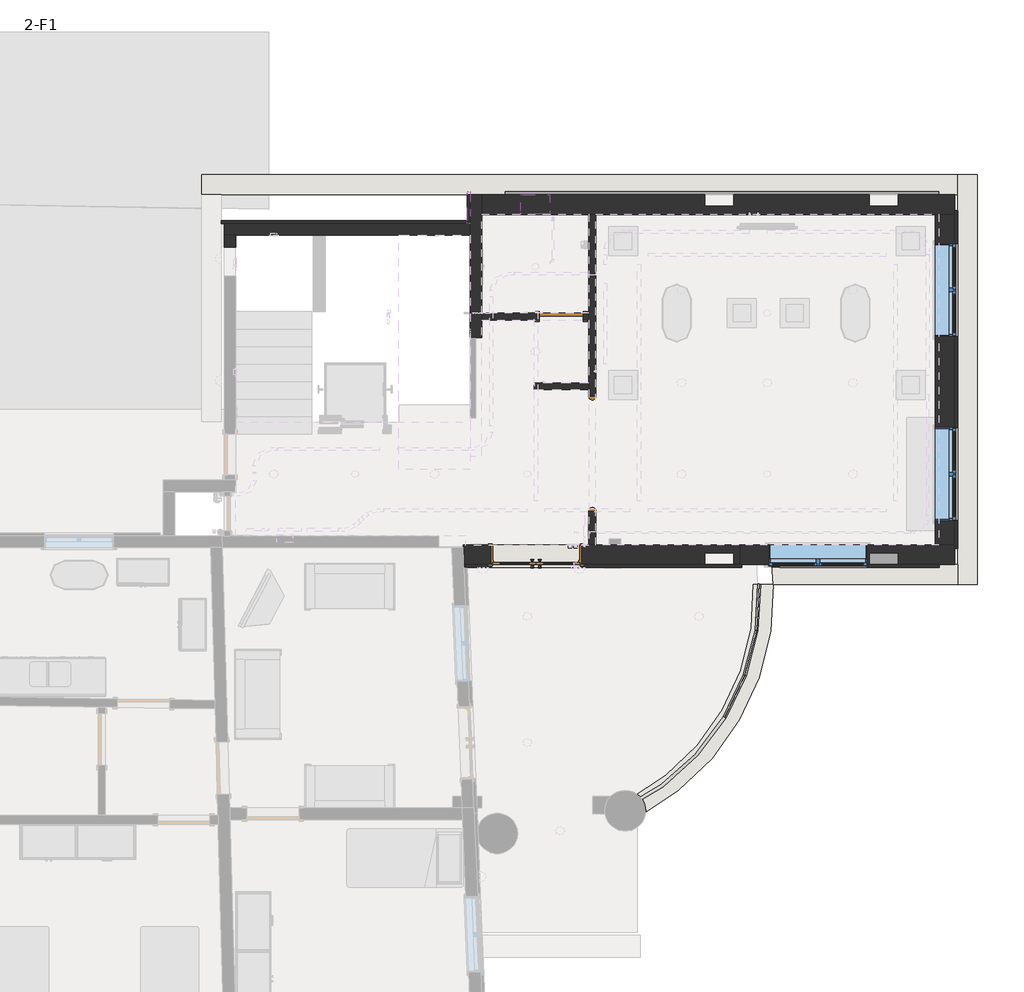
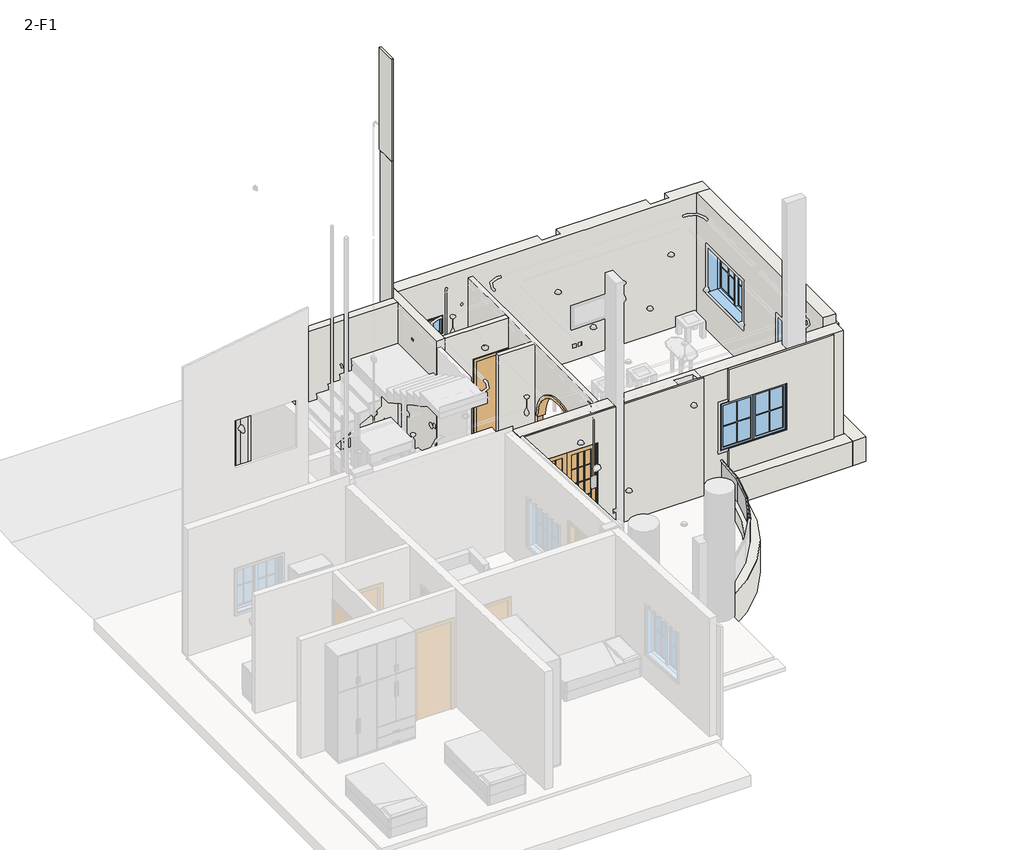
# One storey, part 2 of 6: 20 walls, 4 windows, 3 doors, 3 members, 3 plates.
"""IFC4 building model written with IfcOpenShell, lengths in millimetres."""

from ifc_helpers import new_model, si_unit, point, frame, frame_2d, origin, place, context, project, spatial, polyline, circle_curve, trimmed, segment, composite_curve, outline, extrude, faceted_brep, transform, mapped, element, save
from ifc_brep_helpers import plane_surface, cylinder_surface, revolved_surface, advanced_brep
from components import family1_family1_d6cad51c, m_door_interior_double_full_glass_wood_1550_x_2400mm_287b3f01, m_single_flush_0800x_2400_d2134bde, circular_mullion_25mm_radius_00b6462a, circular_mullion_25mm_radius_b3aa5af7, system_panel_glazed_32e3a640, system_panel_glazed_cc563820, m_fixed_0_5x0_5_7bd07c47, m_window_casement_double_1600_x_1300mm_8a1cf402, m_window_casement_double_1900_x_1300mm_09b68162

model = new_model("IFC4")

# Units and contexts
model_context = context("Model", 3, world=origin())
ifc_project = project(units=[si_unit("LENGTHUNIT", "METRE", prefix="MILLI")], contexts=[model_context])

# Site, building, storey
site = spatial("IfcSite", under=ifc_project)
building = spatial("IfcBuilding", under=site)
storey = spatial("IfcBuildingStorey", under=building, Name="2-F1", Elevation=3000.0)

# Doors
placement = place(None, origin())
family1_family1_shape = family1_family1_d6cad51c(model_context)
element("IfcDoor", 1, ObjectType="Family1 : Family1", at=placement, inside=storey, context=model_context, shape_type="MappedRepresentation", body=[
    mapped(family1_family1_shape, transform((1275.5234079, 4741.6620874, 3000.0), x_axis=(0.0, -1.0, 0.0), y_axis=(1.0, 0.0, 0.0), z_axis=(0.0, 0.0, 1.0))),
])
m_door_interior_double_full_glass_wood_1550_x_2400mm_shape = m_door_interior_double_full_glass_wood_1550_x_2400mm_287b3f01(model_context)
element("IfcDoor", 2, ObjectType="M_Door-Interior-Double-Full Glass-Wood : 1550 x 2400mm", at=placement, inside=storey, context=model_context, shape_type="MappedRepresentation", body=[
    mapped(m_door_interior_double_full_glass_wood_1550_x_2400mm_shape, transform((307.5234079, 2997.4736583, 3050.0), x_axis=(-1.0, 0.0, 0.0), y_axis=(0.0, -1.0, 0.0), z_axis=(0.0, 0.0, 1.0))),
])
m_single_flush_0800x_2400_shape = m_single_flush_0800x_2400_d2134bde(model_context)
element("IfcDoor", 3, ObjectType="M_Single-Flush : 0800x 2400", at=placement, inside=storey, context=model_context, shape_type="MappedRepresentation", body=[
    mapped(m_single_flush_0800x_2400_shape, transform((740.5234079, 7101.6620874, 3000.0), x_axis=(1.0, 0.0, 0.0), y_axis=(0.0, 1.0, 0.0), z_axis=(0.0, 0.0, 1.0))),
])

# Members
circular_mullion_25mm_radius_shape = circular_mullion_25mm_radius_00b6462a(model_context)
element("IfcMember", 4, ObjectType="Circular Mullion : 25mm Radius", at=placement, inside=storey, context=model_context, shape_type="MappedRepresentation", body=[
    mapped(circular_mullion_25mm_radius_shape, transform((3552.5617588, 200.8336317, 4110.0), x_axis=(0.0, 0.0, 1.0), y_axis=(-0.9008991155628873, 0.43402855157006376, 0.0), z_axis=(-0.43402855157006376, -0.9008991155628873, 0.0))),
])
element("IfcMember", 5, ObjectType="Circular Mullion : 25mm Radius", at=placement, inside=storey, context=model_context, shape_type="MappedRepresentation", body=[
    mapped(circular_mullion_25mm_radius_shape, transform((3899.7846001, 921.5529242, 4110.0), x_axis=(0.0, 0.0, 1.0), y_axis=(-0.9679183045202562, 0.251265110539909, 0.0), z_axis=(-0.25126511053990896, -0.9679183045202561, 0.0))),
])
circular_mullion_25mm_radius_2_shape = circular_mullion_25mm_radius_b3aa5af7(model_context)
element("IfcMember", 6, ObjectType="Circular Mullion : 25mm Radius", at=placement, inside=storey, context=model_context, shape_type="MappedRepresentation", body=[
    mapped(circular_mullion_25mm_radius_2_shape, transform((4100.7966885, 1695.8875678, 4110.0), x_axis=(0.0, 0.0, 1.0), y_axis=(-0.9982591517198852, 0.05898021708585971, 0.0), z_axis=(-0.05898021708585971, -0.9982591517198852, 0.0))),
])

# Plates
system_panel_glazed_shape = system_panel_glazed_32e3a640(model_context)
element("IfcPlate", 7, ObjectType="System Panel : Glazed", at=placement, inside=storey, context=model_context, shape_type="MappedRepresentation", body=[
    mapped(system_panel_glazed_shape, transform((4124.3887755, 2095.1912305, 3430.0), x_axis=(-0.05898021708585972, -0.9982591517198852, 0.0), y_axis=(0.9982591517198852, -0.05898021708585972, 0.0), z_axis=(0.0, 0.0, 1.0))),
])
system_panel_glazed_2_shape = system_panel_glazed_cc563820(model_context)
element("IfcPlate", 8, ObjectType="System Panel : Glazed", at=placement, inside=storey, context=model_context, shape_type="MappedRepresentation", body=[
    mapped(system_panel_glazed_2_shape, transform((4000.2906443, 1308.720246, 3430.0), x_axis=(-0.2512651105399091, -0.9679183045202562, 0.0), y_axis=(0.9679183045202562, -0.2512651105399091, 0.0), z_axis=(0.0, 0.0, 1.0))),
])
element("IfcPlate", 9, ObjectType="System Panel : Glazed", at=placement, inside=storey, context=model_context, shape_type="MappedRepresentation", body=[
    mapped(system_panel_glazed_2_shape, transform((3726.1731795, 561.1932779, 3430.0), x_axis=(-0.43402855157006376, -0.9008991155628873, 0.0), y_axis=(0.9008991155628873, -0.43402855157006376, 0.0), z_axis=(0.0, 0.0, 1.0))),
])

# Walls
element("IfcWall", 10, ObjectType="34cm", at=placement, inside=storey, context=model_context, shape_type="Brep", body=[
    faceted_brep([(7512.5234079, 9201.6620874, 6550.0), (7512.5234079, 9201.6620874, 3000.0), (6542.5234079, 9201.6620874, 3000.0), (6542.5234079, 9201.6620874, 6550.0), (3712.5234079, 9201.6620874, 3000.0), (3712.5234079, 9201.6620874, 6550.0), (6042.5234079, 9201.6620874, 6550.0), (6042.5234079, 9201.6620874, 3000.0), (-627.4765921, 9201.6620874, 3000.0), (-627.4765921, 9201.6620874, 6550.0), (3212.5234079, 9201.6620874, 6550.0), (3212.5234079, 9201.6620874, 3000.0), (544.0234079, 9201.6620874, 5000.0), (544.0234079, 9201.6620874, 5500.0), (44.0234079, 9201.6620874, 5500.0), (44.0234079, 9201.6620874, 5000.0), (-627.4765921, 8861.6620874, 3000.0), (1215.5234079, 8861.6620874, 3000.0), (1335.5234079, 8861.6620874, 3000.0), (7512.5234079, 8861.6620874, 3000.0), (7512.5234079, 8861.6620874, 6550.0), (7172.5234079, 8861.6620874, 6550.0), (-627.4765921, 8861.6620874, 6550.0), (544.0234079, 8861.6620874, 5500.0), (544.0234079, 8861.6620874, 5000.0), (44.0234079, 8861.6620874, 5000.0), (44.0234079, 8861.6620874, 5500.0), (3952.8774899, 8861.6620874, 4170.0), (3952.8774899, 8861.6620874, 4230.0), (4012.8774899, 8861.6620874, 4230.0), (4012.8774899, 8861.6620874, 4170.0), (4097.8774899, 8861.6620874, 4170.0), (4097.8774899, 8861.6620874, 4230.0), (4157.8774899, 8861.6620874, 4230.0), (4157.8774899, 8861.6620874, 4170.0), (3950.6274899, 8861.6620874, 3420.0), (3950.6274899, 8861.6620874, 3480.0), (4010.6274899, 8861.6620874, 3480.0), (4010.6274899, 8861.6620874, 3420.0), (4097.8774899, 8861.6620874, 3420.0), (4097.8774899, 8861.6620874, 3480.0), (4157.8774899, 8861.6620874, 3480.0), (4157.8774899, 8861.6620874, 3420.0), (3212.5234079, 9001.6620874, 3000.0), (3712.5234079, 9001.6620874, 3000.0), (6042.5234079, 9001.6620874, 3000.0), (6542.5234079, 9001.6620874, 3000.0), (6542.5234079, 9001.6620874, 6550.0), (6042.5234079, 9001.6620874, 6550.0), (3712.5234079, 9001.6620874, 6550.0), (3212.5234079, 9001.6620874, 6550.0), (3952.8774899, 8911.6620874, 4170.0), (4012.8774899, 8911.6620874, 4170.0), (4012.8774899, 8911.6620874, 4230.0), (3952.8774899, 8911.6620874, 4230.0), (4097.8774899, 8911.6620874, 4170.0), (4157.8774899, 8911.6620874, 4170.0), (4157.8774899, 8911.6620874, 4230.0), (4097.8774899, 8911.6620874, 4230.0), (3950.6274899, 8911.6620874, 3420.0), (4010.6274899, 8911.6620874, 3420.0), (4010.6274899, 8911.6620874, 3480.0), (3950.6274899, 8911.6620874, 3480.0), (4097.8774899, 8911.6620874, 3420.0), (4157.8774899, 8911.6620874, 3420.0), (4157.8774899, 8911.6620874, 3480.0), (4097.8774899, 8911.6620874, 3480.0)], [[[0, 1, 2, 3]], [[4, 5, 6, 7]], [[8, 9, 10, 11], [12, 13, 14, 15]], [[16, 17, 18, 19, 20, 21, 22], [23, 24, 25, 26], [27, 28, 29, 30], [31, 32, 33, 34], [35, 36, 37, 38], [39, 40, 41, 42]], [[19, 18, 17, 16, 8, 11, 43, 44, 4, 7, 45, 46, 2, 1]], [[22, 21, 20, 0, 3, 47, 48, 6, 5, 49, 50, 10, 9]], [[13, 12, 24, 23]], [[14, 13, 23, 26]], [[15, 14, 26, 25]], [[12, 15, 25, 24]], [[9, 8, 16, 22]], [[51, 52, 53, 54]], [[51, 54, 28, 27]], [[54, 53, 29, 28]], [[53, 52, 30, 29]], [[52, 51, 27, 30]], [[55, 56, 57, 58]], [[55, 58, 32, 31]], [[58, 57, 33, 32]], [[57, 56, 34, 33]], [[56, 55, 31, 34]], [[59, 60, 61, 62]], [[59, 62, 36, 35]], [[62, 61, 37, 36]], [[61, 60, 38, 37]], [[60, 59, 35, 38]], [[63, 64, 65, 66]], [[63, 66, 40, 39]], [[66, 65, 41, 40]], [[65, 64, 42, 41]], [[64, 63, 39, 42]], [[1, 0, 20, 19]], [[49, 5, 4, 44]], [[50, 49, 44, 43]], [[10, 50, 43, 11]], [[46, 47, 3, 2]], [[47, 46, 45, 48]], [[48, 45, 7, 6]]]),
])
element("IfcWall", 11, ObjectType="34cm", at=placement, inside=storey, context=model_context, shape_type="Brep", body=[
    faceted_brep([(3812.1676506, 2830.6486583, 6300.0), (3812.1676506, 2830.6486583, 3000.0), (6042.5234079, 2830.6486583, 3000.0), (6042.5234079, 2830.6486583, 6300.0), (4497.7813491, 2830.6486583, 6300.0), (4308.0880373, 2830.6486583, 4110.0), (4308.0880373, 2830.6486583, 5395.0), (4497.7813491, 2830.6486583, 5395.0), (6008.0880373, 2830.6486583, 5395.0), (6008.0880373, 2830.6486583, 4110.0), (4497.7813491, 2830.6486583, 4110.0), (7512.5234079, 2830.6486583, 3000.0), (7512.5234079, 2830.6486583, 6300.0), (7245.5234079, 2830.6486583, 6300.0), (6542.5234079, 2830.6486583, 6300.0), (6542.5234079, 2830.6486583, 3000.0), (7512.5234079, 3170.6486583, 3000.0), (3812.1676506, 3170.6486583, 3000.0), (3812.1676506, 3170.6486583, 6300.0), (7512.5234079, 3170.6486583, 6300.0), (4308.0880373, 3170.6486583, 5395.0), (4308.0880373, 3170.6486583, 4110.0), (6008.0880373, 3170.6486583, 4110.0), (6008.0880373, 3170.6486583, 5395.0), (6542.5234079, 3030.6486583, 3000.0), (6042.5234079, 3030.6486583, 3000.0), (6042.5234079, 3030.6486583, 6300.0), (6542.5234079, 3030.6486583, 6300.0)], [[[0, 1, 2, 3, 4], [5, 6, 7, 8, 9, 10]], [[11, 12, 13, 14, 15]], [[16, 17, 18, 19], [20, 21, 22, 23]], [[17, 16, 11, 15, 24, 25, 2, 1]], [[19, 18, 0, 4, 3, 26, 27, 14, 13, 12]], [[1, 0, 18, 17]], [[21, 20, 6, 5]], [[22, 21, 5, 10, 9]], [[23, 22, 9, 8]], [[20, 23, 8, 7, 6]], [[12, 11, 16, 19]], [[27, 24, 15, 14]], [[25, 26, 3, 2]], [[26, 25, 24, 27]]]),
])
element("IfcWall", 12, ObjectType="34cm", at=placement, inside=storey, context=model_context, shape_type="Brep", body=[
    faceted_brep([(7512.5234079, 3170.6486583, 2750.0), (7512.5234079, 8861.6620874, 2750.0), (7512.5234079, 8861.6620874, 3000.0), (7512.5234079, 8861.6620874, 6550.0), (7512.5234079, 3170.6486583, 6550.0), (7512.5234079, 3170.6486583, 6300.0), (7512.5234079, 3170.6486583, 3000.0), (7512.5234079, 3590.5529852, 5400.0), (7512.5234079, 5190.5529852, 5400.0), (7512.5234079, 5190.5529852, 4110.0), (7512.5234079, 3590.5529852, 4110.0), (7512.5234079, 6758.7168012, 5400.0), (7512.5234079, 8358.7168012, 5400.0), (7512.5234079, 8358.7168012, 4110.0), (7512.5234079, 6758.7168012, 4110.0), (7172.5234079, 3170.6486583, 2750.0), (7172.5234079, 3170.6486583, 6550.0), (7172.5234079, 8861.6620874, 6550.0), (7172.5234079, 8861.6620874, 2750.0), (7172.5234079, 3590.5529852, 5400.0), (7172.5234079, 3590.5529852, 4110.0), (7172.5234079, 5190.5529852, 4110.0), (7172.5234079, 5190.5529852, 5400.0), (7172.5234079, 6758.7168012, 5400.0), (7172.5234079, 6758.7168012, 4110.0), (7172.5234079, 8358.7168012, 4110.0), (7172.5234079, 8358.7168012, 5400.0)], [[[0, 1, 2, 3, 4, 5, 6], [7, 8, 9, 10], [11, 12, 13, 14]], [[15, 16, 17, 18], [19, 20, 21, 22], [23, 24, 25, 26]], [[1, 0, 15, 18]], [[4, 3, 17, 16]], [[20, 19, 7, 10]], [[21, 20, 10, 9]], [[22, 21, 9, 8]], [[19, 22, 8, 7]], [[24, 23, 11, 14]], [[25, 24, 14, 13]], [[26, 25, 13, 12]], [[23, 26, 12, 11]], [[3, 2, 1, 18, 17]], [[0, 6, 5, 4, 16, 15]]]),
])
element("IfcWall", 13, ObjectType="34cm", at=placement, inside=storey, context=model_context, shape_type="Brep", body=[
    faceted_brep([(3812.1676506, 3170.6486583, 3000.0), (-942.5203759, 3170.6486583, 3000.0), (-942.5203759, 3170.6486583, 6300.0), (3812.1676506, 3170.6486583, 6300.0), (-467.4765921, 3170.6486583, 5475.0), (-467.4765921, 3170.6486583, 3050.0), (1082.5234079, 3170.6486583, 3050.0), (1082.5234079, 3170.6486583, 5475.0), (3812.1676506, 2830.6486583, 3000.0), (3812.1676506, 2830.6486583, 6300.0), (3712.5234079, 2830.6486583, 6300.0), (3712.5234079, 2830.6486583, 3000.0), (-928.9399762, 2830.6486583, 6300.0), (-928.9399762, 2830.6486583, 3000.0), (3212.5234079, 2830.6486583, 3000.0), (3212.5234079, 2830.6486583, 6300.0), (-467.4765921, 2830.6486583, 3050.0), (-467.4765921, 2830.6486583, 5475.0), (1082.5234079, 2830.6486583, 5475.0), (1082.5234079, 2830.6486583, 3050.0), (3712.5234079, 3030.6486583, 3000.0), (3212.5234079, 3030.6486583, 3000.0), (-940.7564284, 3126.4863231, 3000.0), (-941.0747587, 3134.4560655, 3000.0), (-940.7564284, 3126.4863231, 6300.0), (3212.5234079, 3030.6486583, 6300.0), (3712.5234079, 3030.6486583, 6300.0)], [[[0, 1, 2, 3], [4, 5, 6, 7]], [[8, 9, 10, 11]], [[12, 13, 14, 15], [16, 17, 18, 19]], [[1, 0, 8, 11, 20, 21, 14, 13, 22, 23]], [[3, 2, 24, 12, 15, 25, 26, 10, 9]], [[0, 3, 9, 8]], [[5, 4, 17, 16]], [[4, 7, 18, 17]], [[7, 6, 19, 18]], [[6, 5, 16, 19]], [[2, 1, 23, 22, 13, 12, 24]], [[26, 20, 11, 10]], [[21, 25, 15, 14]], [[25, 21, 20, 26]]]),
])
element("IfcWall", 14, ObjectType="Generic - 200mm", at=placement, inside=storey, context=model_context, shape_type="AdvancedBrep", body=[
    advanced_brep(
    [(-827.4765921, 8701.6620874, 3000.0), (-5057.4765921, 8701.6620874, 3000.0), (-5057.4765921, 8701.6620874, 6550.0), (-827.4765921, 8701.6620874, 6550.0), (-5057.4765921, 8501.6620874, 3000.0), (-4857.4765921, 8501.6620874, 3000.0), (-827.4765921, 8501.6620874, 3000.0), (-827.4765921, 8501.6620874, 6550.0), (-4857.4765921, 8501.6620874, 6550.0), (-5057.4765921, 8501.6620874, 6550.0), (-4152.4765921, 8501.6620874, 5986.2440191), (-4262.4765921, 8501.6620874, 5986.2440191), (-1387.4765921, 8501.6620874, 3700.0), (-1497.4765921, 8501.6620874, 3700.0), (-4262.4765921, 8539.7620874, 5986.2440191), (-4152.4765921, 8539.7620874, 5986.2440191), (-1497.4765921, 8539.7620874, 3700.0), (-1387.4765921, 8539.7620874, 3700.0)],
    [
        (0, 1),
        (1, 2),
        (2, 3),
        (3, 0),
        (4, 5),
        (5, 6),
        (6, 7),
        (7, 8),
        (8, 9),
        (9, 4),
        (10, 11, circle_curve(frame((-4207.4765921, 8501.6620874, 5986.2440191), z_axis=(0.0, 1.0, 0.0), x_axis=(1.0, 0.0, 0.0)), 55.0)),
        (11, 10, circle_curve(frame((-4207.4765921, 8501.6620874, 5986.2440191), z_axis=(0.0, 1.0, 0.0), x_axis=(1.0, 0.0, 0.0)), 55.0)),
        (12, 13, circle_curve(frame((-1442.4765921, 8501.6620874, 3700.0), z_axis=(0.0, 1.0, 0.0), x_axis=(1.0, 0.0, 0.0)), 55.0)),
        (13, 12, circle_curve(frame((-1442.4765921, 8501.6620874, 3700.0), z_axis=(0.0, 1.0, 0.0), x_axis=(1.0, 0.0, 0.0)), 55.0)),
        (0, 6),
        (4, 1),
        (2, 9),
        (7, 3),
        (14, 15, circle_curve(frame((-4207.4765921, 8539.7620874, 5986.2440191), z_axis=(0.0, -1.0, 0.0), x_axis=(1.0, 0.0, 0.0)), 55.0)),
        (15, 14, circle_curve(frame((-4207.4765921, 8539.7620874, 5986.2440191), z_axis=(0.0, -1.0, 0.0), x_axis=(1.0, 0.0, 0.0)), 55.0)),
        (14, 11),
        (10, 15),
        (16, 17, circle_curve(frame((-1442.4765921, 8539.7620874, 3700.0), z_axis=(0.0, -1.0, 0.0), x_axis=(1.0, 0.0, 0.0)), 55.0)),
        (17, 16, circle_curve(frame((-1442.4765921, 8539.7620874, 3700.0), z_axis=(0.0, -1.0, 0.0), x_axis=(1.0, 0.0, 0.0)), 55.0)),
        (16, 13),
        (12, 17),
    ],
    [
        plane_surface(frame((-262.1225101, 8701.6620874, 3000.0), z_axis=(0.0, 1.0, 0.0), x_axis=(-1.0, 0.0, 0.0))),
        plane_surface(frame((-262.1225101, 8501.6620874, 3000.0), z_axis=(0.0, -1.0, 0.0), x_axis=(1.0, 0.0, 0.0))),
        plane_surface(frame((-727.4765921, 8701.6620874, 3000.0), z_axis=(0.0, 0.0, -1.0), x_axis=(0.0, -1.0, 0.0))),
        plane_surface(frame((-4957.4765921, 8701.6620874, 6550.0), z_axis=(0.0, 0.0, 1.0), x_axis=(0.0, -1.0, 0.0))),
        plane_surface(frame((-5057.4765921, 8301.6620874, 3000.0), z_axis=(-1.0, 0.0, 0.0), x_axis=(0.0, -1.0, 0.0))),
        plane_surface(frame((-4152.4765921, 8539.7620874, 5986.2440191), z_axis=(0.0, -1.0, 0.0), x_axis=(0.0, 0.0, -1.0))),
        revolved_surface(polyline([(-4152.4765921, 8501.6620874, 5986.2440191), (-4152.4765921, 8539.7620874, 5986.2440191)]), (-4207.4765921, 8539.7620874, 5986.2440191), (0.0, -1.0, 0.0)),
        plane_surface(frame((-1387.4765921, 8539.7620874, 3700.0), z_axis=(0.0, -1.0, 0.0), x_axis=(0.0, 0.0, -1.0))),
        revolved_surface(polyline([(-1387.4765921, 8501.6620874, 3700.0), (-1387.4765921, 8539.7620874, 3700.0)]), (-1442.4765921, 8539.7620874, 3700.0), (0.0, -1.0, 0.0)),
        plane_surface(frame((-827.4765921, 8053.3241747, 3000.0), z_axis=(1.0, 0.0, 0.0), x_axis=(0.0, -1.0, 0.0))),
    ],
    [
        (0, [[1, 2, 3, 4]]),
        (1, [[5, 6, 7, 8, 9, 10], [11, 12], [13, 14]]),
        (2, [[-1, 15, -6, -5, 16]]),
        (3, [[-3, 17, -9, -8, 18]]),
        (4, [[-2, -16, -10, -17]]),
        (5, [[19, 20]]),
        (6, [[-19, 21, -11, 22]]),
        (6, [[-20, -22, -12, -21]]),
        (7, [[23, 24]]),
        (8, [[-23, 25, -13, 26]]),
        (8, [[-24, -26, -14, -25]]),
        (9, [[-4, -18, -7, -15]]),
    ],
),
])
element("IfcWall", 15, ObjectType="Generic - 200mm", at=placement, inside=storey, context=model_context, shape_type="SweptSolid", body=[
    extrude(outline(polyline([(-5057.4765921, 8301.6620874), (-5057.4765921, 8501.6620874), (-4857.4765921, 8501.6620874), (-4857.4765921, 8301.6620874), (-5057.4765921, 8301.6620874)])), frame((0.0, 0.0, 3000.0), z_axis=(0.0, 0.0, 1.0), x_axis=(1.0, 0.0, 0.0)), (0.0, 0.0, 1.0), 3550.0),
])
element("IfcWall", 16, ObjectType="Generic - 200mm", at=placement, inside=storey, context=model_context, shape_type="Brep", body=[
    faceted_brep([(-827.4765921, 9201.6620874, 3000.0), (-827.4765921, 8701.6620874, 3000.0), (-827.4765921, 8501.6620874, 3000.0), (-827.4765921, 6741.6620874, 3000.0), (-827.4765921, 6741.6620874, 6550.0), (-827.4765921, 8501.6620874, 6550.0), (-827.4765921, 8701.6620874, 6550.0), (-827.4765921, 9201.6620874, 6550.0), (-827.4765921, 7874.4560655, 5891.4545455), (-827.4765921, 7874.4560655, 5951.4545455), (-827.4765921, 7814.4560655, 5951.4545455), (-827.4765921, 7814.4560655, 5891.4545455), (-827.4765921, 6871.6620874, 4120.0), (-827.4765921, 6871.6620874, 4180.0), (-827.4765921, 6811.6620874, 4180.0), (-827.4765921, 6811.6620874, 4120.0), (-627.4765921, 6741.6620874, 3000.0), (-627.4765921, 7041.6620874, 3000.0), (-627.4765921, 7161.6620874, 3000.0), (-627.4765921, 9201.6620874, 3000.0), (-627.4765921, 9201.6620874, 3050.0), (-627.4765921, 9201.6620874, 6550.0), (-627.4765921, 8861.6620874, 6550.0), (-627.4765921, 6741.6620874, 6550.0), (-727.4765921, 6741.6620874, 3000.0), (-777.4765921, 7874.4560655, 5891.4545455), (-777.4765921, 7814.4560655, 5891.4545455), (-777.4765921, 7814.4560655, 5951.4545455), (-777.4765921, 7874.4560655, 5951.4545455), (-777.4765921, 6871.6620874, 4120.0), (-777.4765921, 6811.6620874, 4120.0), (-777.4765921, 6811.6620874, 4180.0), (-777.4765921, 6871.6620874, 4180.0)], [[[0, 1, 2, 3, 4, 5, 6, 7], [8, 9, 10, 11], [12, 13, 14, 15]], [[16, 17, 18, 19, 20, 21, 22, 23]], [[3, 2, 1, 0, 19, 18, 17, 16, 24]], [[4, 3, 24, 16, 23]], [[7, 6, 5, 4, 23, 22, 21]], [[0, 7, 21, 20, 19]], [[25, 26, 27, 28]], [[25, 28, 9, 8]], [[28, 27, 10, 9]], [[27, 26, 11, 10]], [[26, 25, 8, 11]], [[29, 30, 31, 32]], [[29, 32, 13, 12]], [[32, 31, 14, 13]], [[31, 30, 15, 14]], [[30, 29, 12, 15]]]),
])
element("IfcWall", 17, ObjectType="Generic -120mm", at=placement, inside=storey, context=model_context, shape_type="AdvancedBrep", body=[
    advanced_brep(
    [(1215.5234079, 3170.6486583, 3000.0), (1215.5234079, 3170.6486583, 6300.0), (1215.5234079, 5841.6620874, 6300.0), (1215.5234079, 5961.6620874, 6300.0), (1215.5234079, 7041.6620874, 6300.0), (1215.5234079, 7161.6620874, 6300.0), (1215.5234079, 8861.6620874, 6300.0), (1215.5234079, 8861.6620874, 3000.0), (1215.5234079, 7161.6620874, 3000.0), (1215.5234079, 7041.6620874, 3000.0), (1215.5234079, 5961.6620874, 3000.0), (1215.5234079, 5841.6620874, 3000.0), (1215.5234079, 5728.0035472, 3000.0), (1215.5234079, 5728.0035472, 4413.6585401), (1215.5234079, 3755.3206275, 4413.6585401), (1215.5234079, 3755.3206275, 3000.0), (1335.5234079, 3170.6486583, 6300.0), (1335.5234079, 3170.6486583, 3000.0), (1335.5234079, 3755.3206275, 3000.0), (1335.5234079, 3755.3206275, 4413.6585401), (1335.5234079, 5728.0035472, 4413.6585401), (1335.5234079, 5728.0035472, 3000.0), (1335.5234079, 8861.6620874, 3000.0), (1335.5234079, 8861.6620874, 6300.0), (1335.5234079, 8371.6620874, 3420.0), (1335.5234079, 8371.6620874, 3480.0), (1335.5234079, 8431.6620874, 3480.0), (1335.5234079, 8431.6620874, 3420.0), (1335.5234079, 6031.6620874, 3420.0), (1335.5234079, 6031.6620874, 3480.0), (1335.5234079, 6091.6620874, 3480.0), (1335.5234079, 6091.6620874, 3420.0), (1335.5234079, 6131.6620874, 4170.0), (1335.5234079, 6131.6620874, 4230.0), (1335.5234079, 6191.6620874, 4230.0), (1335.5234079, 6191.6620874, 4170.0), (1285.5234079, 8371.6620874, 3420.0), (1285.5234079, 8431.6620874, 3420.0), (1285.5234079, 8431.6620874, 3480.0), (1285.5234079, 8371.6620874, 3480.0), (1285.5234079, 6031.6620874, 3420.0), (1285.5234079, 6091.6620874, 3420.0), (1285.5234079, 6091.6620874, 3480.0), (1285.5234079, 6031.6620874, 3480.0), (1285.5234079, 6131.6620874, 4170.0), (1285.5234079, 6191.6620874, 4170.0), (1285.5234079, 6191.6620874, 4230.0), (1285.5234079, 6131.6620874, 4230.0)],
    [
        (0, 1),
        (1, 2),
        (2, 3),
        (3, 4),
        (4, 5),
        (5, 6),
        (6, 7),
        (7, 8),
        (8, 9),
        (9, 10),
        (10, 11),
        (11, 12),
        (12, 13),
        (13, 14, circle_curve(frame((1215.5234079, 4741.6620874, 4413.6585401), z_axis=(1.0, 0.0, 0.0), x_axis=(0.0, -1.0, 0.0)), 986.3414599)),
        (14, 15),
        (15, 0),
        (16, 17),
        (17, 18),
        (18, 19),
        (19, 20, circle_curve(frame((1335.5234079, 4741.6620874, 4413.6585401), z_axis=(-1.0, 0.0, 0.0), x_axis=(0.0, -1.0, 0.0)), 986.3414599)),
        (20, 21),
        (21, 22),
        (22, 23),
        (23, 16),
        (24, 25),
        (25, 26),
        (26, 27),
        (27, 24),
        (28, 29),
        (29, 30),
        (30, 31),
        (31, 28),
        (32, 33),
        (33, 34),
        (34, 35),
        (35, 32),
        (17, 0),
        (15, 18),
        (7, 22),
        (21, 12),
        (16, 1),
        (23, 6),
        (14, 19),
        (13, 20),
        (36, 37),
        (37, 38),
        (38, 39),
        (39, 36),
        (39, 25),
        (24, 36),
        (38, 26),
        (37, 27),
        (40, 41),
        (41, 42),
        (42, 43),
        (43, 40),
        (43, 29),
        (28, 40),
        (42, 30),
        (41, 31),
        (44, 45),
        (45, 46),
        (46, 47),
        (47, 44),
        (47, 33),
        (32, 44),
        (46, 34),
        (45, 35),
    ],
    [
        plane_surface(frame((1215.5234079, 8671.6620874, 3000.0), z_axis=(-1.0, 0.0, 0.0), x_axis=(0.0, -1.0, 0.0))),
        plane_surface(frame((1335.5234079, 8671.6620874, 3000.0), z_axis=(1.0, 0.0, 0.0), x_axis=(0.0, 1.0, 0.0))),
        plane_surface(frame((1215.5234079, 9031.6620874, 3000.0), z_axis=(0.0, 0.0, -1.0), x_axis=(1.0, 0.0, 0.0))),
        plane_surface(frame((1215.5234079, 3170.6486583, 3000.0), z_axis=(0.0, -1.0, 0.0), x_axis=(1.0, 0.0, 0.0))),
        plane_surface(frame((1215.5234079, 3170.6486583, 6300.0), z_axis=(0.0, 0.0, 1.0), x_axis=(1.0, 0.0, 0.0))),
        plane_surface(frame((7139.8275075, 8861.6620874, 3000.0), z_axis=(0.0, 1.0, 0.0), x_axis=(1.0, 0.0, 0.0))),
        plane_surface(frame((-188.4765921, 3755.3206275, 3000.0), z_axis=(0.0, 1.0, 0.0), x_axis=(1.0, 0.0, 0.0))),
        revolved_surface(polyline([(1215.5234079, 3755.3206275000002, 4413.6585401), (1335.5234079, 3755.3206275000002, 4413.6585401)]), (2859.5234079, 4741.6620874, 4413.6585401), (-1.0, 0.0, 0.0)),
        plane_surface(frame((-188.4765921, 5728.0035472, 4413.6585401), z_axis=(0.0, -1.0, 0.0), x_axis=(1.0, 0.0, 0.0))),
        plane_surface(frame((1285.5234079, 8371.6620874, 3420.0), z_axis=(1.0, 0.0, 0.0), x_axis=(0.0, 0.0, 1.0))),
        plane_surface(frame((1285.5234079, 8371.6620874, 3420.0), z_axis=(0.0, 1.0, 0.0), x_axis=(1.0, 0.0, 0.0))),
        plane_surface(frame((1285.5234079, 8371.6620874, 3480.0), z_axis=(0.0, 0.0, -1.0), x_axis=(1.0, 0.0, 0.0))),
        plane_surface(frame((1285.5234079, 8431.6620874, 3480.0), z_axis=(0.0, -1.0, 0.0), x_axis=(1.0, 0.0, 0.0))),
        plane_surface(frame((1285.5234079, 8431.6620874, 3420.0), z_axis=(0.0, 0.0, 1.0), x_axis=(1.0, 0.0, 0.0))),
        plane_surface(frame((1285.5234079, 6031.6620874, 3420.0), z_axis=(1.0, 0.0, 0.0), x_axis=(0.0, 0.0, 1.0))),
        plane_surface(frame((1285.5234079, 6031.6620874, 3420.0), z_axis=(0.0, 1.0, 0.0), x_axis=(1.0, 0.0, 0.0))),
        plane_surface(frame((1285.5234079, 6031.6620874, 3480.0), z_axis=(0.0, 0.0, -1.0), x_axis=(1.0, 0.0, 0.0))),
        plane_surface(frame((1285.5234079, 6091.6620874, 3480.0), z_axis=(0.0, -1.0, 0.0), x_axis=(1.0, 0.0, 0.0))),
        plane_surface(frame((1285.5234079, 6091.6620874, 3420.0), z_axis=(0.0, 0.0, 1.0), x_axis=(1.0, 0.0, 0.0))),
        plane_surface(frame((1285.5234079, 6131.6620874, 4170.0), z_axis=(1.0, 0.0, 0.0), x_axis=(0.0, 0.0, 1.0))),
        plane_surface(frame((1285.5234079, 6131.6620874, 4170.0), z_axis=(0.0, 1.0, 0.0), x_axis=(1.0, 0.0, 0.0))),
        plane_surface(frame((1285.5234079, 6131.6620874, 4230.0), z_axis=(0.0, 0.0, -1.0), x_axis=(1.0, 0.0, 0.0))),
        plane_surface(frame((1285.5234079, 6191.6620874, 4230.0), z_axis=(0.0, -1.0, 0.0), x_axis=(1.0, 0.0, 0.0))),
        plane_surface(frame((1285.5234079, 6191.6620874, 4170.0), z_axis=(0.0, 0.0, 1.0), x_axis=(1.0, 0.0, 0.0))),
    ],
    [
        (0, [[1, 2, 3, 4, 5, 6, 7, 8, 9, 10, 11, 12, 13, 14, 15, 16]]),
        (1, [[17, 18, 19, 20, 21, 22, 23, 24], [25, 26, 27, 28], [29, 30, 31, 32], [33, 34, 35, 36]]),
        (2, [[37, -16, 38, -18]]),
        (2, [[39, -22, 40, -12, -11, -10, -9, -8]]),
        (3, [[-1, -37, -17, 41]]),
        (4, [[-6, -5, -4, -3, -2, -41, -24, 42]]),
        (5, [[-7, -42, -23, -39]]),
        (6, [[43, -19, -38, -15]]),
        (7, [[-43, -14, 44, -20]]),
        (8, [[-44, -13, -40, -21]]),
        (9, [[45, 46, 47, 48]]),
        (10, [[-48, 49, -25, 50]]),
        (11, [[-47, 51, -26, -49]]),
        (12, [[-46, 52, -27, -51]]),
        (13, [[-45, -50, -28, -52]]),
        (14, [[53, 54, 55, 56]]),
        (15, [[-56, 57, -29, 58]]),
        (16, [[-55, 59, -30, -57]]),
        (17, [[-54, 60, -31, -59]]),
        (18, [[-53, -58, -32, -60]]),
        (19, [[61, 62, 63, 64]]),
        (20, [[-64, 65, -33, 66]]),
        (21, [[-63, 67, -34, -65]]),
        (22, [[-62, 68, -35, -67]]),
        (23, [[-61, -66, -36, -68]]),
    ],
),
])
element("IfcWall", 18, ObjectType="Generic -120mm", at=placement, inside=storey, context=model_context, shape_type="Brep", body=[
    faceted_brep([(1215.5234079, 7041.6620874, 6300.0), (-627.4765921, 7041.6620874, 6300.0), (-627.4765921, 7041.6620874, 3000.0), (365.5234079, 7041.6620874, 3000.0), (365.5234079, 7041.6620874, 5400.0), (1115.5234079, 7041.6620874, 5400.0), (1115.5234079, 7041.6620874, 3000.0), (1215.5234079, 7041.6620874, 3000.0), (-627.4765921, 7161.6620874, 6300.0), (1215.5234079, 7161.6620874, 6300.0), (1215.5234079, 7161.6620874, 3000.0), (1115.5234079, 7161.6620874, 3000.0), (1115.5234079, 7161.6620874, 5400.0), (365.5234079, 7161.6620874, 5400.0), (365.5234079, 7161.6620874, 3000.0), (-627.4765921, 7161.6620874, 3000.0), (277.5234079, 7161.6620874, 4120.0), (277.5234079, 7161.6620874, 4180.0), (217.5234079, 7161.6620874, 4180.0), (217.5234079, 7161.6620874, 4120.0), (277.5234079, 7111.6620874, 4120.0), (217.5234079, 7111.6620874, 4120.0), (217.5234079, 7111.6620874, 4180.0), (277.5234079, 7111.6620874, 4180.0)], [[[0, 1, 2, 3, 4, 5, 6, 7]], [[8, 9, 10, 11, 12, 13, 14, 15], [16, 17, 18, 19]], [[2, 15, 14, 3]], [[10, 7, 6, 11]], [[1, 0, 9, 8]], [[2, 1, 8, 15]], [[0, 7, 10, 9]], [[5, 12, 11, 6]], [[12, 5, 4, 13]], [[13, 4, 3, 14]], [[20, 21, 22, 23]], [[20, 23, 17, 16]], [[23, 22, 18, 17]], [[22, 21, 19, 18]], [[21, 20, 16, 19]]]),
])
element("IfcWall", 19, ObjectType="Generic -120mm", at=placement, inside=storey, context=model_context, shape_type="Brep", body=[
    faceted_brep([(272.5234079, 5841.6620874, 3000.0), (1215.5234079, 5841.6620874, 3000.0), (1215.5234079, 5841.6620874, 6300.0), (272.5234079, 5841.6620874, 6300.0), (1215.5234079, 5961.6620874, 3000.0), (272.5234079, 5961.6620874, 3000.0), (272.5234079, 5961.6620874, 6300.0), (1215.5234079, 5961.6620874, 6300.0), (445.5234079, 5961.6620874, 4120.0), (445.5234079, 5961.6620874, 4180.0), (385.5234079, 5961.6620874, 4180.0), (385.5234079, 5961.6620874, 4120.0), (445.5234079, 5911.6620874, 4120.0), (385.5234079, 5911.6620874, 4120.0), (385.5234079, 5911.6620874, 4180.0), (445.5234079, 5911.6620874, 4180.0)], [[[0, 1, 2, 3]], [[4, 5, 6, 7], [8, 9, 10, 11]], [[1, 0, 5, 4]], [[3, 2, 7, 6]], [[0, 3, 6, 5]], [[2, 1, 4, 7]], [[12, 13, 14, 15]], [[12, 15, 9, 8]], [[15, 14, 10, 9]], [[14, 13, 11, 10]], [[13, 12, 8, 11]]]),
])
element("IfcWall", 20, ObjectType="Wall1", at=placement, inside=storey, context=model_context, shape_type="Brep", body=[
    faceted_brep([(7562.5234079, 9541.6620874, 2750.0), (7562.5234079, 9201.6620874, 2750.0), (7562.5234079, 2830.6486583, 2750.0), (7562.5234079, 2490.6486583, 2750.0), (7562.5234079, 2490.6486583, 3430.0), (7562.5234079, 2830.6486583, 3430.0), (7562.5234079, 9201.6620874, 3430.0), (7562.5234079, 9541.6620874, 3430.0), (7902.5234079, 9541.6620874, 2750.0), (7902.5234079, 9541.6620874, 3430.0), (7902.5234079, 2490.6486583, 3430.0), (7902.5234079, 2490.6486583, 2750.0)], [[[0, 1, 2, 3, 4, 5, 6, 7]], [[8, 9, 10, 11]], [[3, 2, 1, 0, 8, 11]], [[7, 6, 5, 4, 10, 9]], [[4, 3, 11, 10]], [[0, 7, 9, 8]]]),
])
element("IfcWall", 21, ObjectType="Wall1", at=placement, inside=storey, context=model_context, shape_type="SweptSolid", body=[
    extrude(outline(composite_curve([segment(polyline([(4362.8531501, 2830.6486583), (7562.5234079, 2830.6486583), (7562.5234079, 2490.6486583), (4388.286927, 2490.6486583)]), True, "CONTINUOUS"), segment(trimmed(circle_curve(frame_2d((41.375057, 2336.428223)), 4349.6467383), [point((4388.286927, 2490.6486583))], [point((4362.8531501, 2830.6486583))], True, "CARTESIAN"), True, "CONTINUOUS")], self_intersect=False)), frame((0.0, 0.0, 2750.0), z_axis=(0.0, 0.0, 1.0), x_axis=(1.0, 0.0, 0.0)), (0.0, 0.0, 1.0), 680.0),
])
element("IfcWall", 22, ObjectType="Wall1", at=placement, inside=storey, context=model_context, shape_type="AdvancedBrep", body=[
    advanced_brep(
    [(2069.5973528, -1511.3946766, 3430.0), (4388.286927, 2490.6486583, 3430.0), (4048.0548574, 2490.6486583, 3430.0), (1911.0567581, -1210.6208748, 3430.0), (4388.286927, 2490.6486583, 2550.0), (2069.5973528, -1511.3946766, 2550.0), (1911.0567581, -1210.6208748, 2550.0), (4048.0548574, 2490.6486583, 2550.0), (4138.1200376, 2490.6486583, 2550.0), (2118.6167624, -1197.9982193, 2550.0), (2219.9543575, -1370.4241217, 2550.0), (4338.2551032, 2490.6486583, 2550.0), (4338.2551032, 2490.6486583, 2570.9943344), (4138.1200376, 2490.6486583, 2570.9943344), (2219.9543575, -1370.4241217, 2570.9943344), (2118.6167624, -1197.9982193, 2570.9943344)],
    [
        (0, 1, circle_curve(frame((41.375057, 2336.428223, 3430.0), z_axis=(0.0, 0.0, 1.0), x_axis=(1.0, 0.0, 0.0)), 4349.6467383)),
        (1, 2),
        (2, 3, circle_curve(frame((41.375057, 2336.428223, 3430.0), z_axis=(0.0, 0.0, -1.0), x_axis=(1.0, 0.0, 0.0)), 4009.6467383)),
        (3, 0),
        (4, 5, circle_curve(frame((41.375057, 2336.428223, 2550.0), z_axis=(0.0, 0.0, -1.0), x_axis=(1.0, 0.0, 0.0)), 4349.6467383)),
        (5, 6),
        (6, 7, circle_curve(frame((41.375057, 2336.428223, 2550.0), z_axis=(0.0, 0.0, 1.0), x_axis=(1.0, 0.0, 0.0)), 4009.6467383)),
        (7, 8),
        (8, 9, circle_curve(frame((41.375057, 2336.428223, 2550.0), z_axis=(0.0, 0.0, -1.0), x_axis=(1.0, 0.0, 0.0)), 4099.6467383)),
        (9, 10),
        (10, 11, circle_curve(frame((41.375057, 2336.428223, 2550.0), z_axis=(0.0, 0.0, 1.0), x_axis=(1.0, 0.0, 0.0)), 4299.6467383)),
        (11, 4),
        (0, 5),
        (4, 1),
        (2, 7),
        (6, 3),
        (11, 12),
        (12, 13),
        (13, 8),
        (14, 15),
        (15, 13, circle_curve(frame((41.375057, 2336.428223, 2570.9943344), z_axis=(0.0, 0.0, 1.0), x_axis=(1.0, 0.0, 0.0)), 4099.6467383)),
        (12, 14, circle_curve(frame((41.375057, 2336.428223, 2570.9943344), z_axis=(0.0, 0.0, -1.0), x_axis=(1.0, 0.0, 0.0)), 4299.6467383)),
        (10, 14),
        (15, 9),
    ],
    [
        plane_surface(frame((4391.0217953, 2336.428223, 3430.0), z_axis=(0.0, 0.0, 1.0), x_axis=(0.0, 1.0, 0.0))),
        plane_surface(frame((4391.0217953, 2336.428223, 2550.0), z_axis=(0.0, 0.0, -1.0), x_axis=(0.0, -1.0, 0.0))),
        cylinder_surface(frame((41.375057, 2336.428223, 2550.0), z_axis=(0.0, 0.0, 1.0), x_axis=(1.0, 0.0, 0.0)), 4349.6467383),
        revolved_surface(polyline([(4051.0217953, 2336.428223, 2550.0), (4051.0217953, 2336.428223, 3430.0)]), (41.375057, 2336.428223, 2550.0), (0.0, 0.0, -1.0)),
        plane_surface(frame((1911.0567581, -1210.6208748, 3430.0), z_axis=(-0.8846288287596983, -0.46629586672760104, 0.0), x_axis=(0.0, 0.0, -1.0))),
        plane_surface(frame((7795.5234079, 2490.6486583, 2750.0), z_axis=(0.0, 1.0, 0.0), x_axis=(1.0, 0.0, 0.0))),
        plane_surface(frame((4341.0217953, 2336.428223, 2570.9943344), z_axis=(0.0, 0.0, -1.0), x_axis=(0.0, 1.0, 0.0))),
        revolved_surface(polyline([(4341.0217953, 2336.428223, 2570.9943344), (4341.0217953, 2336.428223, 2550.0)]), (41.375057, 2336.428223, 580.0), (0.0, 0.0, 1.0)),
        cylinder_surface(frame((41.375057, 2336.428223, 580.0), z_axis=(0.0, 0.0, -1.0), x_axis=(1.0, 0.0, 0.0)), 4099.6467383),
        plane_surface(frame((2118.6167624, -1197.9982193, 2570.9943344), z_axis=(0.8621295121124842, 0.5066879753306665, 0.0), x_axis=(0.0, 0.0, -1.0))),
    ],
    [
        (0, [[1, 2, 3, 4]]),
        (1, [[5, 6, 7, 8, 9, 10, 11, 12]]),
        (2, [[-1, 13, -5, 14]]),
        (3, [[-3, 15, -7, 16]]),
        (4, [[-4, -16, -6, -13]]),
        (5, [[-2, -14, -12, 17, 18, 19, -8, -15]]),
        (6, [[20, 21, -18, 22]]),
        (7, [[-22, -17, -11, 23]]),
        (8, [[-21, 24, -9, -19]]),
        (9, [[-20, -23, -10, -24]]),
    ],
),
])
element("IfcWall", 23, ObjectType="Wall1", at=placement, inside=storey, context=model_context, shape_type="Brep", body=[
    faceted_brep([(7562.5234079, 9201.6620874, 3430.0), (-5107.4765921, 9201.6620874, 3430.0), (-5447.4765921, 9201.6620874, 3430.0), (-5447.4765921, 9201.6620874, 2750.0), (-5107.4765921, 9201.6620874, 2750.0), (-4292.1225101, 9201.6620874, 2750.0), (-4292.1225101, 9201.6620874, 3000.0), (-3942.1225101, 9201.6620874, 3000.0), (-3942.1225101, 9201.6620874, 2750.0), (7562.5234079, 9201.6620874, 2750.0), (-5447.4765921, 9541.6620874, 3430.0), (7562.5234079, 9541.6620874, 3430.0), (7562.5234079, 9541.6620874, 2750.0), (-3942.1225101, 9541.6620874, 2750.0), (-3942.1225101, 9541.6620874, 3000.0), (-4292.1225101, 9541.6620874, 3000.0), (-4292.1225101, 9541.6620874, 2750.0), (-5447.4765921, 9541.6620874, 2750.0)], [[[0, 1, 2, 3, 4, 5, 6, 7, 8, 9]], [[10, 11, 12, 13, 14, 15, 16, 17]], [[3, 17, 16, 5, 4]], [[12, 9, 8, 13]], [[2, 1, 0, 11, 10]], [[3, 2, 10, 17]], [[0, 9, 12, 11]], [[15, 6, 5, 16]], [[7, 14, 13, 8]], [[6, 15, 14, 7]]]),
])
element("IfcWall", 24, ObjectType="exterior stone walls", at=placement, inside=storey, context=model_context, shape_type="Brep", body=[
    faceted_brep([(7512.5234079, 8925.6486583, 2750.0), (7512.5234079, 8861.6620874, 2750.0), (7512.5234079, 3170.6486583, 2750.0), (7512.5234079, 3110.3467097, 2750.0), (7512.5234079, 3110.3467097, 6300.0), (7512.5234079, 8925.6486583, 6300.0), (7512.5234079, 6758.7168012, 5400.0), (7512.5234079, 6758.7168012, 4110.0), (7512.5234079, 8358.7168012, 4110.0), (7512.5234079, 8358.7168012, 5400.0), (7512.5234079, 3590.5529852, 5400.0), (7512.5234079, 3590.5529852, 4110.0), (7512.5234079, 5190.5529852, 4110.0), (7512.5234079, 5190.5529852, 5400.0), (7562.5234079, 8925.6486583, 2750.0), (7562.5234079, 8925.6486583, 6300.0), (7562.5234079, 3110.3467097, 6300.0), (7562.5234079, 3110.3467097, 2750.0), (7562.5234079, 6758.7168012, 5400.0), (7562.5234079, 8358.7168012, 5400.0), (7562.5234079, 8358.7168012, 4110.0), (7562.5234079, 6758.7168012, 4110.0), (7562.5234079, 3590.5529852, 5400.0), (7562.5234079, 5190.5529852, 5400.0), (7562.5234079, 5190.5529852, 4110.0), (7562.5234079, 3590.5529852, 4110.0)], [[[0, 1, 2, 3, 4, 5], [6, 7, 8, 9], [10, 11, 12, 13]], [[14, 15, 16, 17], [18, 19, 20, 21], [22, 23, 24, 25]], [[3, 2, 1, 0, 14, 17]], [[4, 3, 17, 16]], [[5, 4, 16, 15]], [[0, 5, 15, 14]], [[7, 6, 18, 21]], [[8, 7, 21, 20]], [[9, 8, 20, 19]], [[6, 9, 19, 18]], [[11, 10, 22, 25]], [[12, 11, 25, 24]], [[13, 12, 24, 23]], [[10, 13, 23, 22]]]),
])
element("IfcWall", 25, ObjectType="exterior stone walls", at=placement, inside=storey, context=model_context, shape_type="Brep", body=[
    faceted_brep([(-926.9428586, 2780.6486583, 2750.0), (3845.3230844, 2780.6486583, 2750.0), (3845.3230844, 2780.6486583, 6300.0), (-926.9428586, 2780.6486583, 6300.0), (-926.9428586, 2780.6486583, 3000.0), (1505.5234079, 2780.6486583, 3420.0), (1505.5234079, 2780.6486583, 3480.0), (1565.5234079, 2780.6486583, 3480.0), (1565.5234079, 2780.6486583, 3420.0), (-467.4765921, 2780.6486583, 3050.0), (-467.4765921, 2780.6486583, 5475.0), (1082.5234079, 2780.6486583, 5475.0), (1082.5234079, 2780.6486583, 3050.0), (3845.3230844, 2830.6486583, 2750.0), (-928.9399762, 2830.6486583, 2750.0), (-928.9399762, 2830.6486583, 3000.0), (-928.9399762, 2830.6486583, 6300.0), (3212.5234079, 2830.6486583, 6300.0), (3712.5234079, 2830.6486583, 6300.0), (3812.1676506, 2830.6486583, 6300.0), (3845.3230844, 2830.6486583, 6300.0), (1505.5234079, 2830.6486583, 3480.0), (1505.5234079, 2830.6486583, 3420.0), (1565.5234079, 2830.6486583, 3420.0), (1565.5234079, 2830.6486583, 3480.0), (-467.4765921, 2830.6486583, 3050.0), (1082.5234079, 2830.6486583, 3050.0), (1082.5234079, 2830.6486583, 5475.0), (-467.4765921, 2830.6486583, 5475.0)], [[[0, 1, 2, 3, 4], [5, 6, 7, 8], [9, 10, 11, 12]], [[13, 14, 15, 16, 17, 18, 19, 20], [21, 22, 23, 24], [25, 26, 27, 28]], [[1, 0, 14, 13]], [[2, 1, 13, 20]], [[3, 2, 20, 19, 18, 17, 16]], [[0, 4, 3, 16, 15, 14]], [[21, 6, 5, 22]], [[6, 21, 24, 7]], [[7, 24, 23, 8]], [[22, 5, 8, 23]], [[10, 9, 25, 28]], [[11, 10, 28, 27]], [[12, 11, 27, 26]], [[9, 12, 26, 25]]]),
])
element("IfcWall", 26, ObjectType="exterior stone walls", at=placement, inside=storey, context=model_context, shape_type="Brep", body=[
    faceted_brep([(-877.4765921, 9201.6620874, 3000.0), (-877.4765921, 8751.6620874, 3000.0), (-877.4765921, 8701.6620874, 3000.0), (-877.4765921, 8701.6620874, 6300.0), (-877.4765921, 8701.6620874, 6980.0), (-877.4765921, 8701.6620874, 9650.0), (-877.4765921, 8701.6620874, 10330.0), (-877.4765921, 9041.6620874, 10330.0), (-877.4765921, 9201.6620874, 10330.0), (-827.4765921, 9201.6620874, 3000.0), (-827.4765921, 9201.6620874, 6550.0), (-827.4765921, 9201.6620874, 9900.0), (-827.4765921, 9201.6620874, 10330.0), (-827.4765921, 8701.6620874, 10330.0), (-827.4765921, 8701.6620874, 3000.0)], [[[0, 1, 2, 3, 4, 5, 6, 7, 8]], [[9, 10, 11, 12, 13, 14]], [[2, 1, 0, 9, 14]], [[8, 7, 6, 13, 12]], [[0, 8, 12, 11, 10, 9]], [[2, 14, 13, 6, 5, 4, 3]]]),
])
element("IfcWall", 27, ObjectType="exterior stone walls", at=placement, inside=storey, context=model_context, shape_type="Brep", body=[
    faceted_brep([(-877.4765921, 8751.6620874, 3000.0), (-5107.4765921, 8751.6620874, 3000.0), (-5107.4765921, 8751.6620874, 6300.0), (-877.4765921, 8751.6620874, 6300.0), (-877.4765921, 8701.6620874, 3000.0), (-877.4765921, 8701.6620874, 6300.0), (-5057.4765921, 8701.6620874, 6300.0), (-5107.4765921, 8701.6620874, 6300.0), (-5107.4765921, 8701.6620874, 3000.0), (-5057.4765921, 8701.6620874, 3000.0)], [[[0, 1, 2, 3]], [[4, 5, 6, 7, 8, 9]], [[1, 0, 4, 9, 8]], [[3, 2, 7, 6, 5]], [[0, 3, 5, 4]], [[2, 1, 8, 7]]]),
])
element("IfcWall", 28, ObjectType="exterior stone walls", at=placement, inside=storey, context=model_context, shape_type="Brep", body=[
    faceted_brep([(4497.7813491, 2780.6486583, 3429.175163), (7245.5234079, 2780.6486583, 3429.175163), (7245.5234079, 2780.6486583, 6300.0), (4497.7813491, 2780.6486583, 6300.0), (4497.7813491, 2780.6486583, 5395.0), (6008.0880373, 2780.6486583, 5395.0), (6008.0880373, 2780.6486583, 4110.0), (4497.7813491, 2780.6486583, 4110.0), (7245.5234079, 2830.6486583, 3429.175163), (4497.7813491, 2830.6486583, 3429.175163), (4497.7813491, 2830.6486583, 4110.0), (6008.0880373, 2830.6486583, 4110.0), (6008.0880373, 2830.6486583, 5395.0), (4497.7813491, 2830.6486583, 5395.0), (4497.7813491, 2830.6486583, 6300.0), (6042.5234079, 2830.6486583, 6300.0), (6542.5234079, 2830.6486583, 6300.0), (7245.5234079, 2830.6486583, 6300.0)], [[[0, 1, 2, 3, 4, 5, 6, 7]], [[8, 9, 10, 11, 12, 13, 14, 15, 16, 17]], [[1, 0, 9, 8]], [[2, 1, 8, 17]], [[3, 2, 17, 16, 15, 14]], [[3, 14, 13, 4]], [[9, 0, 7, 10]], [[6, 11, 10, 7]], [[11, 6, 5, 12]], [[12, 5, 4, 13]]]),
])
element("IfcWall", 29, ObjectType="exterior stone walls", at=placement, inside=storey, context=model_context, shape_type="Brep", body=[
    faceted_brep([(-877.4765921, 9251.6620874, 10330.0), (-877.4765921, 8751.6620874, 10330.0), (-877.4765921, 8701.6620874, 10330.0), (-877.4765921, 8701.6620874, 13150.0), (-877.4765921, 8751.6620874, 13150.0), (-877.4765921, 9201.6620874, 13150.0), (-877.4765921, 9251.6620874, 13150.0), (-827.4765921, 9251.6620874, 10330.0), (-827.4765921, 9251.6620874, 13150.0), (-827.4765921, 9201.6620874, 13150.0), (-827.4765921, 8701.6620874, 13150.0), (-827.4765921, 8701.6620874, 10330.0), (-827.4765921, 9201.6620874, 10330.0)], [[[0, 1, 2, 3, 4, 5, 6]], [[7, 8, 9, 10, 11, 12]], [[2, 1, 0, 7, 12, 11]], [[6, 5, 4, 3, 10, 9, 8]], [[3, 2, 11, 10]], [[0, 6, 8, 7]]]),
])

# Windows
m_fixed_0_5x0_5_shape = m_fixed_0_5x0_5_7bd07c47(model_context)
element("IfcWindow", 30, ObjectType="M_Fixed : 0.5x0.5", at=placement, inside=storey, context=model_context, shape_type="MappedRepresentation", body=[
    mapped(m_fixed_0_5x0_5_shape, transform((294.0234079, 9044.6620874, 4085.0), x_axis=(-1.0, 0.0, 0.0), y_axis=(0.0, -1.0, 0.0), z_axis=(0.0, 0.0, 1.0))),
])
m_window_casement_double_1600_x_1300mm_shape = m_window_casement_double_1600_x_1300mm_8a1cf402(model_context)
element("IfcWindow", 31, ObjectType="M_Window-Casement-Double : 1600 x 1300mm", at=placement, inside=storey, context=model_context, shape_type="MappedRepresentation", body=[
    mapped(m_window_casement_double_1600_x_1300mm_shape, transform((7342.5234079, 7558.7168012, 3210.0), x_axis=(0.0, -1.0, 0.0), y_axis=(1.0, 0.0, 0.0), z_axis=(0.0, 0.0, 1.0))),
])
element("IfcWindow", 32, ObjectType="M_Window-Casement-Double : 1600 x 1300mm", at=placement, inside=storey, context=model_context, shape_type="MappedRepresentation", body=[
    mapped(m_window_casement_double_1600_x_1300mm_shape, transform((7342.5234079, 4390.5529852, 3210.0), x_axis=(0.0, -1.0, 0.0), y_axis=(1.0, 0.0, 0.0), z_axis=(0.0, 0.0, 1.0))),
])
m_window_casement_double_1900_x_1300mm_shape = m_window_casement_double_1900_x_1300mm_09b68162(model_context)
element("IfcWindow", 33, ObjectType="M_Window-Casement-Double : 1900 x 1300mm", at=placement, inside=storey, context=model_context, shape_type="MappedRepresentation", body=[
    mapped(m_window_casement_double_1900_x_1300mm_shape, transform((5158.0880373, 3000.6486583, 3210.0), x_axis=(-1.0, 0.0, 0.0), y_axis=(0.0, -1.0, 0.0), z_axis=(0.0, 0.0, 1.0))),
])

save(model, "model.ifc")
